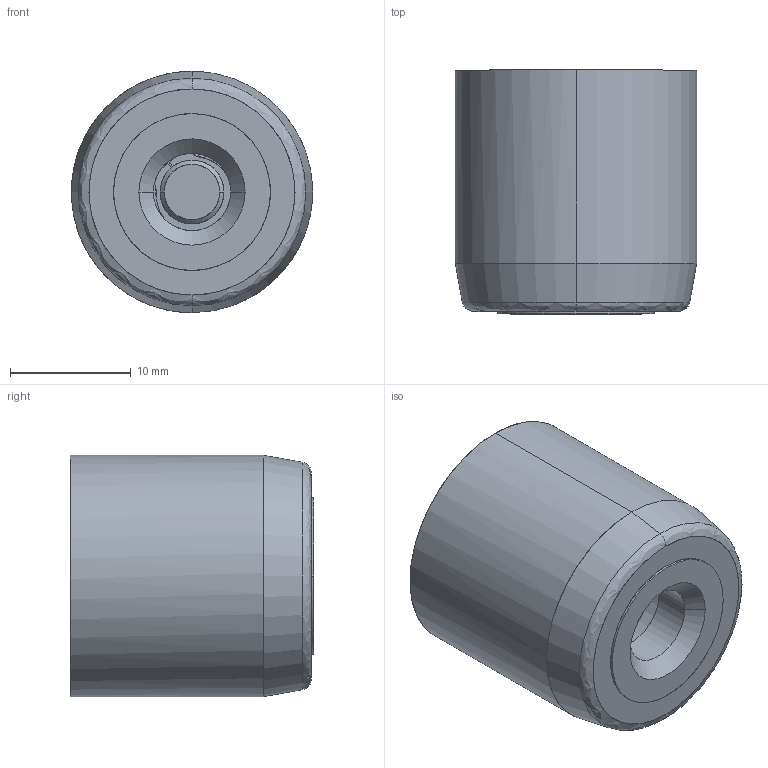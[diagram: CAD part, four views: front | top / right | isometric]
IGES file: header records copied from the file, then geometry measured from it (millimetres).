
Start section: START RECORD GO HERE.
Global section: file name: va201720.igs; native system: DASSAULT SYSTEMES CATIA V5 R20 - www.3ds.com; preprocessor: CATIA Version 5 Release 20 ; author: Utente; organization: NB04-ASUS; date: 20201107.140602; units: millimetre
Bounding box: 20 x 20.2 x 20 mm (x, y, z)
Surface area: 4371 mm2 (no closed solid volume)
Topology: 0 solids, 0 shells, 193 faces, 872 edges, 872 vertices
Faces by surface type: plane 67, revolution 66, bspline 60
